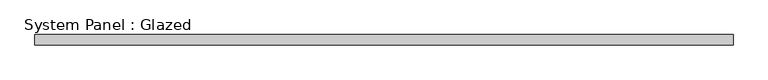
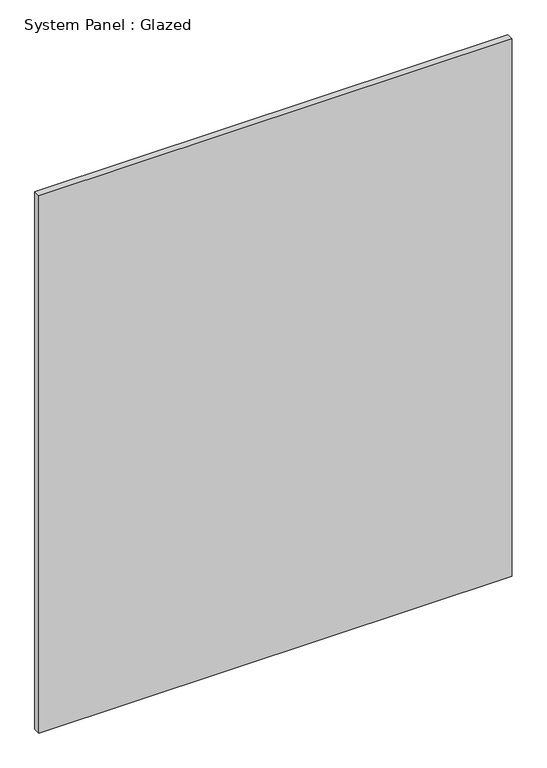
"""IFC4 building model written with IfcOpenShell, lengths in millimetres: plate geometry, System Panel : Glazed."""

from ifc_helpers import new_model, si_unit, origin, origin_with_axes, place, context, project, spatial, polyline, outline, extrude, source, transform, mapped, element, save


def system_panel_glazed_bdd544dc(model_context):
    return source(origin(), model_context, "Body", "SweptSolid", [
        extrude(outline(polyline([(863.2499999, 19.05), (-863.2499999, 19.05), (-863.2499999, 44.45), (863.2499999, 44.45), (863.2499999, 19.05)])), origin_with_axes(), (0.0, 0.0, 1.0), 2073.0),
    ])


if __name__ == "__main__":
    model = new_model("IFC4")
    model_context = context("Model", 3, world=origin())
    ifc_project = project(units=[si_unit("LENGTHUNIT", "METRE", prefix="MILLI")], contexts=[model_context])
    site = spatial("IfcSite", under=ifc_project)
    building = spatial("IfcBuilding", under=site)
    placement = place(None, origin())
    system_panel_glazed_shape = system_panel_glazed_bdd544dc(model_context)
    element("IfcPlate", 1, ObjectType="System Panel : Glazed", at=placement, inside=building, context=model_context, shape_type="MappedRepresentation", body=[
        mapped(system_panel_glazed_shape, transform((0.0, 0.0, 0.0), x_axis=(1.0, 0.0, 0.0), y_axis=(0.0, 1.0, 0.0), z_axis=(0.0, 0.0, 1.0))),
    ])
    save(model, "model.ifc")
